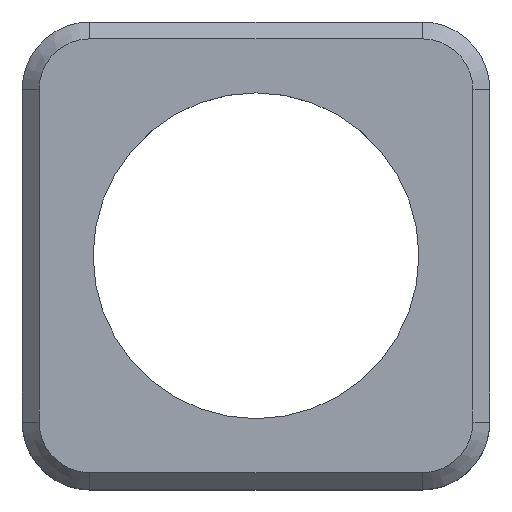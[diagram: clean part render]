
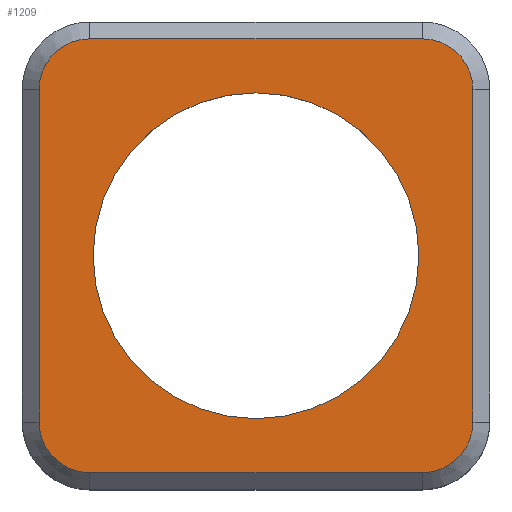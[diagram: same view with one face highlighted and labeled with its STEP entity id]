
A CAD part, top view. The second image highlights one B-rep face of the part: STEP entity #1209.
In plain terms, the highlighted planar face has unit normal (0, 0, 1).
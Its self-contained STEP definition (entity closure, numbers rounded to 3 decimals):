
#17=FACE_BOUND('',#175,.T.);
#43=CIRCLE('',#1281,9.65);
#45=CIRCLE('',#1286,3.);
#47=CIRCLE('',#1290,3.);
#49=CIRCLE('',#1294,3.);
#51=CIRCLE('',#1298,3.);
#101=FACE_OUTER_BOUND('',#174,.T.);
#174=EDGE_LOOP('',(#939,#940,#941,#942,#943,#944,#945,#946));
#175=EDGE_LOOP('',(#947));
#273=LINE('',#1834,#417);
#278=LINE('',#1848,#422);
#282=LINE('',#1858,#426);
#285=LINE('',#1869,#429);
#417=VECTOR('',#1477,10.);
#422=VECTOR('',#1490,10.);
#426=VECTOR('',#1502,10.);
#429=VECTOR('',#1513,10.);
#544=VERTEX_POINT('',#1809);
#554=VERTEX_POINT('',#1831);
#555=VERTEX_POINT('',#1833);
#558=VERTEX_POINT('',#1841);
#560=VERTEX_POINT('',#1846);
#561=VERTEX_POINT('',#1852);
#562=VERTEX_POINT('',#1856);
#564=VERTEX_POINT('',#1862);
#566=VERTEX_POINT('',#1867);
#669=EDGE_CURVE('',#544,#544,#43,.T.);
#679=EDGE_CURVE('',#554,#555,#273,.T.);
#684=EDGE_CURVE('',#558,#554,#45,.T.);
#686=EDGE_CURVE('',#560,#558,#278,.T.);
#690=EDGE_CURVE('',#561,#560,#47,.T.);
#692=EDGE_CURVE('',#562,#561,#282,.T.);
#695=EDGE_CURVE('',#564,#562,#49,.T.);
#697=EDGE_CURVE('',#566,#564,#285,.T.);
#700=EDGE_CURVE('',#555,#566,#51,.T.);
#939=ORIENTED_EDGE('',*,*,#679,.F.);
#940=ORIENTED_EDGE('',*,*,#684,.F.);
#941=ORIENTED_EDGE('',*,*,#686,.F.);
#942=ORIENTED_EDGE('',*,*,#690,.F.);
#943=ORIENTED_EDGE('',*,*,#692,.F.);
#944=ORIENTED_EDGE('',*,*,#695,.F.);
#945=ORIENTED_EDGE('',*,*,#697,.F.);
#946=ORIENTED_EDGE('',*,*,#700,.F.);
#947=ORIENTED_EDGE('',*,*,#669,.T.);
#1142=PLANE('',#1305);
#1209=ADVANCED_FACE('',(#101,#17),#1142,.T.);
#1281=AXIS2_PLACEMENT_3D('',#1811,#1462,#1463);
#1286=AXIS2_PLACEMENT_3D('',#1843,#1485,#1486);
#1290=AXIS2_PLACEMENT_3D('',#1854,#1497,#1498);
#1294=AXIS2_PLACEMENT_3D('',#1864,#1508,#1509);
#1298=AXIS2_PLACEMENT_3D('',#1873,#1519,#1520);
#1305=AXIS2_PLACEMENT_3D('',#1890,#1539,#1540);
#1462=DIRECTION('center_axis',(0.,0.,-1.));
#1463=DIRECTION('ref_axis',(-1.,0.,0.));
#1477=DIRECTION('',(-1.,0.,0.));
#1485=DIRECTION('center_axis',(0.,0.,-1.));
#1486=DIRECTION('ref_axis',(0.707,-0.707,0.));
#1490=DIRECTION('',(0.,-1.,0.));
#1497=DIRECTION('center_axis',(0.,0.,-1.));
#1498=DIRECTION('ref_axis',(0.707,0.707,0.));
#1502=DIRECTION('',(1.,0.,0.));
#1508=DIRECTION('center_axis',(0.,0.,-1.));
#1509=DIRECTION('ref_axis',(-0.707,0.707,0.));
#1513=DIRECTION('',(0.,1.,0.));
#1519=DIRECTION('center_axis',(0.,0.,-1.));
#1520=DIRECTION('ref_axis',(-0.707,-0.707,0.));
#1539=DIRECTION('center_axis',(0.,0.,1.));
#1540=DIRECTION('ref_axis',(1.,0.,0.));
#1809=CARTESIAN_POINT('',(22.4,12.75,14.72));
#1811=CARTESIAN_POINT('Origin',(12.75,12.75,14.72));
#1831=CARTESIAN_POINT('',(22.6,-0.1,14.72));
#1833=CARTESIAN_POINT('',(2.9,-0.1,14.72));
#1834=CARTESIAN_POINT('',(5.825,-0.1,14.72));
#1841=CARTESIAN_POINT('',(25.6,2.9,14.72));
#1843=CARTESIAN_POINT('Origin',(22.6,2.9,14.72));
#1846=CARTESIAN_POINT('',(25.6,22.6,14.72));
#1848=CARTESIAN_POINT('',(25.6,5.825,14.72));
#1852=CARTESIAN_POINT('',(22.6,25.6,14.72));
#1854=CARTESIAN_POINT('Origin',(22.6,22.6,14.72));
#1856=CARTESIAN_POINT('',(2.9,25.6,14.72));
#1858=CARTESIAN_POINT('',(19.675,25.6,14.72));
#1862=CARTESIAN_POINT('',(-0.1,22.6,14.72));
#1864=CARTESIAN_POINT('Origin',(2.9,22.6,14.72));
#1867=CARTESIAN_POINT('',(-0.1,2.9,14.72));
#1869=CARTESIAN_POINT('',(-0.1,19.675,14.72));
#1873=CARTESIAN_POINT('Origin',(2.9,2.9,14.72));
#1890=CARTESIAN_POINT('Origin',(12.75,12.75,14.72));
